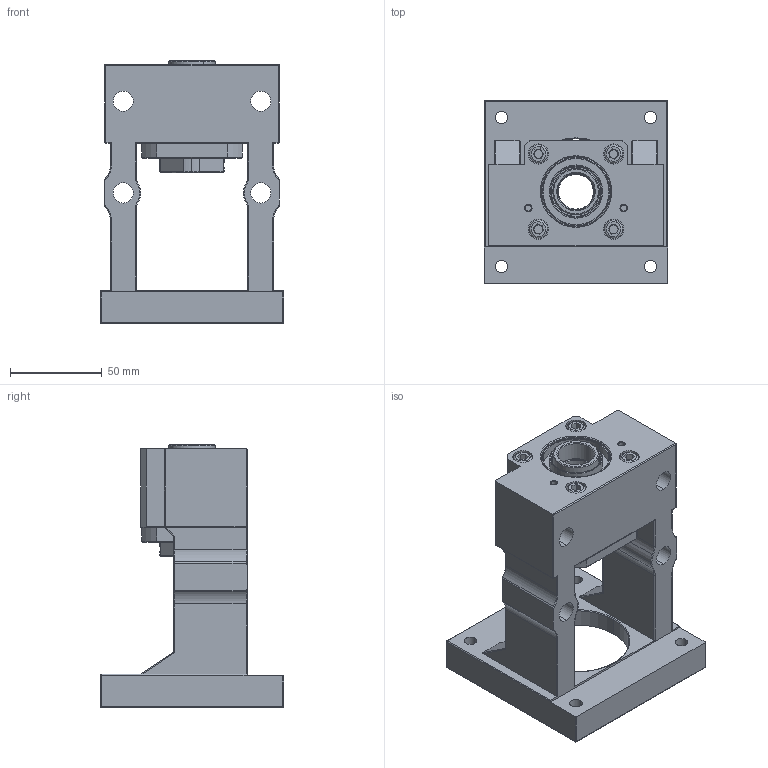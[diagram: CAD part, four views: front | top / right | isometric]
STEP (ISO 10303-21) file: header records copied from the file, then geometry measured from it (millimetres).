
FILE_DESCRIPTION (( 'STEP AP203' ), '1' );
FILE_NAME ('MBCF20-Y.STEP', '2019-02-01T02:26:53', ( '' ), ( '' ), 'SwSTEP 2.0', 'SolidWorks 2018', '' );
FILE_SCHEMA (( 'CONFIG_CONTROL_DESIGN' ));
Length unit declared in the file: millimetre
Products named in the file (1): MBCF20-Y
Bounding box: 100 x 100 x 143 mm (x, y, z)
Surface area: 87400.3 mm2 (no closed solid volume)
Topology: 0 solids, 18 shells, 373 faces, 930 edges, 575 vertices
Faces by surface type: cylinder 144, plane 108, cone 57, torus 52, sphere 8, bspline 4
Entity records: 11601 total; most frequent: CARTESIAN_POINT 2541, DIRECTION 2024, ORIENTED_EDGE 1721, EDGE_CURVE 922, AXIS2_PLACEMENT_3D 810, VERTEX_POINT 575, CIRCLE 440, EDGE_LOOP 433
